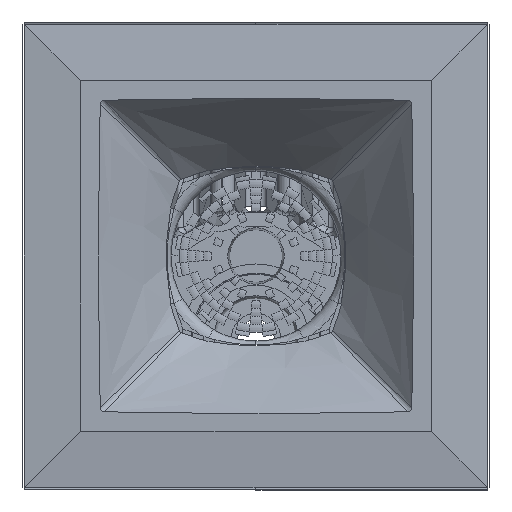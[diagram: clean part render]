
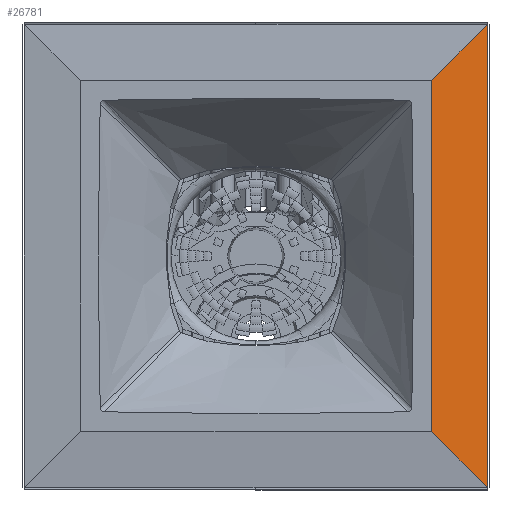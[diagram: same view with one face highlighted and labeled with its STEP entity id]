
A CAD part, front view. The second image highlights one B-rep face of the part: STEP entity #26781.
In plain terms, the highlighted planar face has unit normal (0.1, -0.995, 0).
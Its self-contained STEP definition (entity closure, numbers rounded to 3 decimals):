
#18267=DIRECTION('',(0.,0.,1.));
#18268=VECTOR('',#18267,30.);
#18269=CARTESIAN_POINT('',(15.,-19.55,-15.));
#18270=LINE('',#18269,#18268);
#18694=CARTESIAN_POINT('',(19.784,-19.072,
-19.783));
#18695=CARTESIAN_POINT('',(19.782,-19.072,
-19.781));
#18696=CARTESIAN_POINT('',(19.779,-19.072,
-19.779));
#18697=CARTESIAN_POINT('',(19.777,-19.072,
-19.777));
#18699=DIRECTION('',(-0.705,-0.071,-0.705));
#18700=VECTOR('',#18699,6.773);
#18701=CARTESIAN_POINT('',(19.777,-19.072,
19.777));
#18702=LINE('',#18701,#18700);
#18703=CARTESIAN_POINT('',(19.777,-19.072,
19.777));
#18704=CARTESIAN_POINT('',(19.779,-19.072,
19.779));
#18705=CARTESIAN_POINT('',(19.782,-19.072,
19.781));
#18706=CARTESIAN_POINT('',(19.784,-19.072,
19.783));
#18708=DIRECTION('',(0.995,0.1,0.003));
#18709=VECTOR('',#18708,0.013);
#18710=CARTESIAN_POINT('',(19.784,-19.072,
19.783));
#18711=LINE('',#18710,#18709);
#18712=DIRECTION('',(0.,0.,-1.));
#18713=VECTOR('',#18712,39.566);
#18714=CARTESIAN_POINT('',(19.797,-19.07,
19.783));
#18715=LINE('',#18714,#18713);
#18716=DIRECTION('',(-0.995,-0.1,0.003));
#18717=VECTOR('',#18716,0.013);
#18718=CARTESIAN_POINT('',(19.797,-19.07,
-19.783));
#18719=LINE('',#18718,#18717);
#18753=DIRECTION('',(-0.705,-0.071,0.705));
#18754=VECTOR('',#18753,6.773);
#18755=CARTESIAN_POINT('',(19.777,-19.072,
-19.777));
#18756=LINE('',#18755,#18754);
#25072=CARTESIAN_POINT('',(15.,-19.55,15.));
#25074=VERTEX_POINT('',#25072);
#25076=CARTESIAN_POINT('',(15.,-19.55,-15.));
#25077=VERTEX_POINT('',#25076);
#26169=CARTESIAN_POINT('',(19.777,-19.072,
-19.777));
#26171=VERTEX_POINT('',#26169);
#26172=VERTEX_POINT('',#18694);
#26183=CARTESIAN_POINT('',(19.797,-19.07,
19.783));
#26184=CARTESIAN_POINT('',(19.784,-19.072,
19.783));
#26185=VERTEX_POINT('',#26183);
#26186=VERTEX_POINT('',#26184);
#26189=CARTESIAN_POINT('',(19.797,-19.07,
-19.783));
#26190=VERTEX_POINT('',#26189);
#26191=VERTEX_POINT('',#18703);
#26759=CARTESIAN_POINT('',(17.5,-19.3,0.));
#26760=DIRECTION('',(0.1,-0.995,0.));
#26761=DIRECTION('',(0.995,0.1,0.));
#26762=AXIS2_PLACEMENT_3D('',#26759,#26760,#26761);
#26763=PLANE('',#26762);
#26765=ORIENTED_EDGE('',*,*,#26764,.T.);
#26767=ORIENTED_EDGE('',*,*,#26766,.T.);
#26768=ORIENTED_EDGE('',*,*,#26258,.T.);
#26770=ORIENTED_EDGE('',*,*,#26769,.F.);
#26772=ORIENTED_EDGE('',*,*,#26771,.T.);
#26774=ORIENTED_EDGE('',*,*,#26773,.T.);
#26776=ORIENTED_EDGE('',*,*,#26775,.T.);
#26778=ORIENTED_EDGE('',*,*,#26777,.T.);
#26779=EDGE_LOOP('',(#26765,#26767,#26768,#26770,#26772,#26774,#26776,#26778));
#26780=FACE_OUTER_BOUND('',#26779,.F.);
#26781=ADVANCED_FACE('',(#26780),#26763,.T.);
#18698=B_SPLINE_CURVE_WITH_KNOTS('',3,(#18694,#18695,#18696,#18697),
.UNSPECIFIED.,.F.,.F.,(4,4),(0.,1.),.UNSPECIFIED.);
#18707=B_SPLINE_CURVE_WITH_KNOTS('',3,(#18703,#18704,#18705,#18706),
.UNSPECIFIED.,.F.,.F.,(4,4),(0.,1.),.UNSPECIFIED.);
#26258=EDGE_CURVE('',#25077,#25074,#18270,.T.);
#26764=EDGE_CURVE('',#26172,#26171,#18698,.T.);
#26766=EDGE_CURVE('',#26171,#25077,#18756,.T.);
#26769=EDGE_CURVE('',#26191,#25074,#18702,.T.);
#26771=EDGE_CURVE('',#26191,#26186,#18707,.T.);
#26773=EDGE_CURVE('',#26186,#26185,#18711,.T.);
#26775=EDGE_CURVE('',#26185,#26190,#18715,.T.);
#26777=EDGE_CURVE('',#26190,#26172,#18719,.T.);
